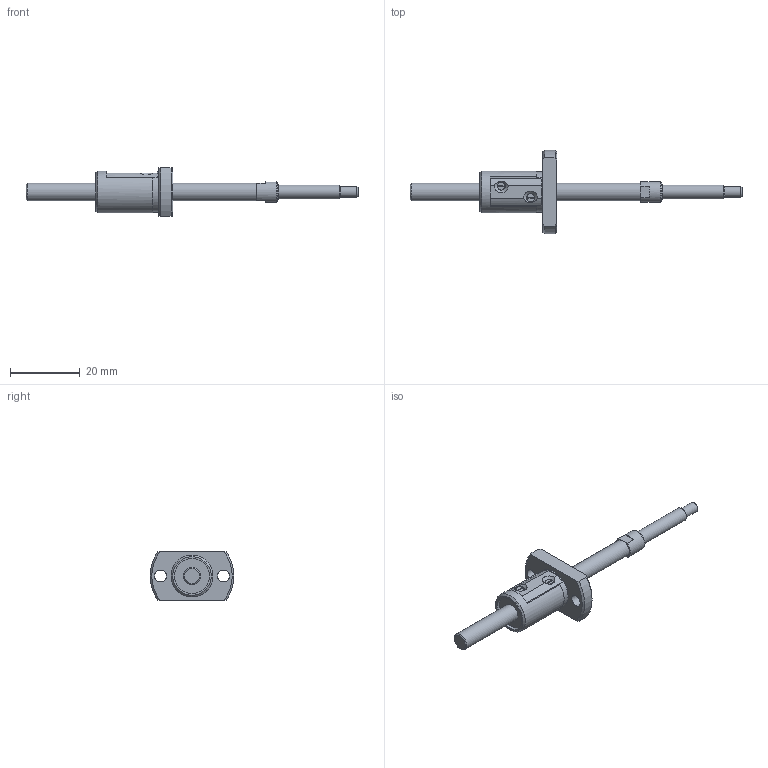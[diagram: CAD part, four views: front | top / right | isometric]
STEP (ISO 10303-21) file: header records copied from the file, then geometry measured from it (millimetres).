
FILE_DESCRIPTION(/* description */ ('STEP AP214'),/* implementation_level */ '2;1');
FILE_NAME(/* name */ 'SG0504-062R095C3A0X(20)',/* time_stamp */ '2026-07-20T19:41:03+02:00',/* author */ ('License CC BY-ND 4.0'),/* organization */ ('CADENAS'),/* preprocessor_version */ 'ST-DEVELOPER v20',/* originating_system */ 'PARTsolutions',/* authorisation */ ' ');
FILE_SCHEMA (('AUTOMOTIVE_DESIGN {1 0 10303 214 3 1 1}'));
Length unit declared in the file: millimetre
Products named in the file (3): SG0504-062R095C3A0X(20); SG0504-62R95C3A_shaft; SG0504_nut
Assembly tree (2 placements, depth 2):
  SG0504-062R095C3A0X(20)
    SG0504-62R95C3A_shaft
    SG0504_nut
Bounding box: 95 x 24 x 14 mm (x, y, z)
Volume: 4314 mm3; surface area: 3447.7 mm2
Topology: 2 solids, 2 shells, 72 faces, 176 edges, 115 vertices
Faces by surface type: plane 35, cylinder 23, cone 13, torus 1
Full cylindrical faces by diameter (mm): 3 x1, 3.4 x2, 4 x1, 5 x2, 6 x1, 10 x2, 11.6 x1, 12 x1
Entity records: 2055 total; most frequent: CARTESIAN_POINT 385, DIRECTION 346, ORIENTED_EDGE 292, EDGE_CURVE 146, AXIS2_PLACEMENT_3D 143, VERTEX_POINT 106, EDGE_LOOP 106, FACE_BOUND 106
